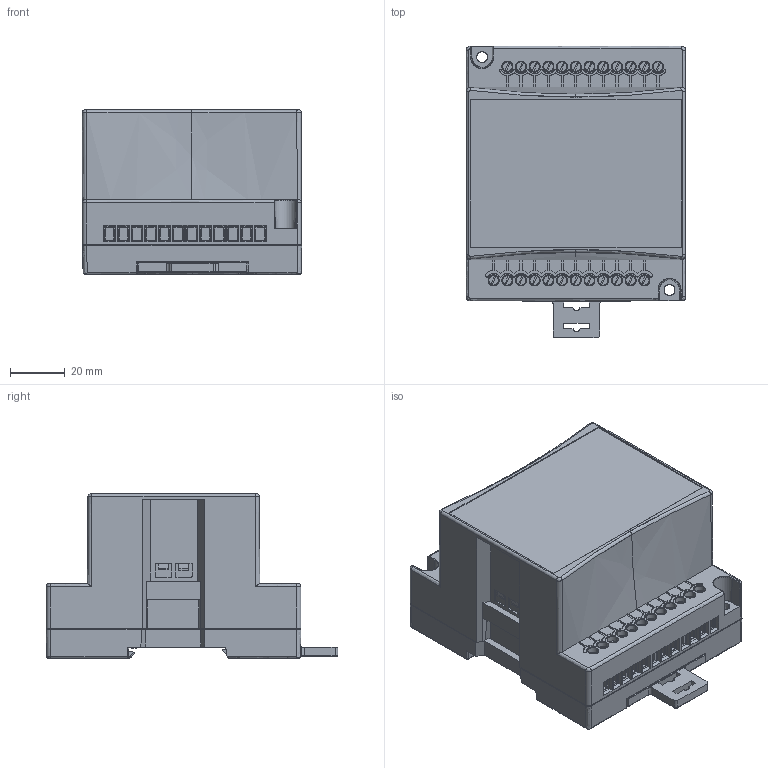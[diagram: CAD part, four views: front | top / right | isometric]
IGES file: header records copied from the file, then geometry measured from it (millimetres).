
Start section: SolidWorks IGES file using analytic representation for surfaces
Global section: file name: Z:\Products\Expansion\CAD File\3D Files\IGES\IO-Expansion.IGS; native system: SolidWorks 2011; preprocessor: SolidWorks 2011; author: baraki; date: 120624.115500; units: millimetre
Bounding box: 80.14 x 106.47 x 59.9 mm (x, y, z)
Surface area: 63263.5 mm2 (no closed solid volume)
Topology: 0 solids, 0 shells, 1919 faces, 18272 edges, 18255 vertices
Faces by surface type: bspline 1352, revolution 567
